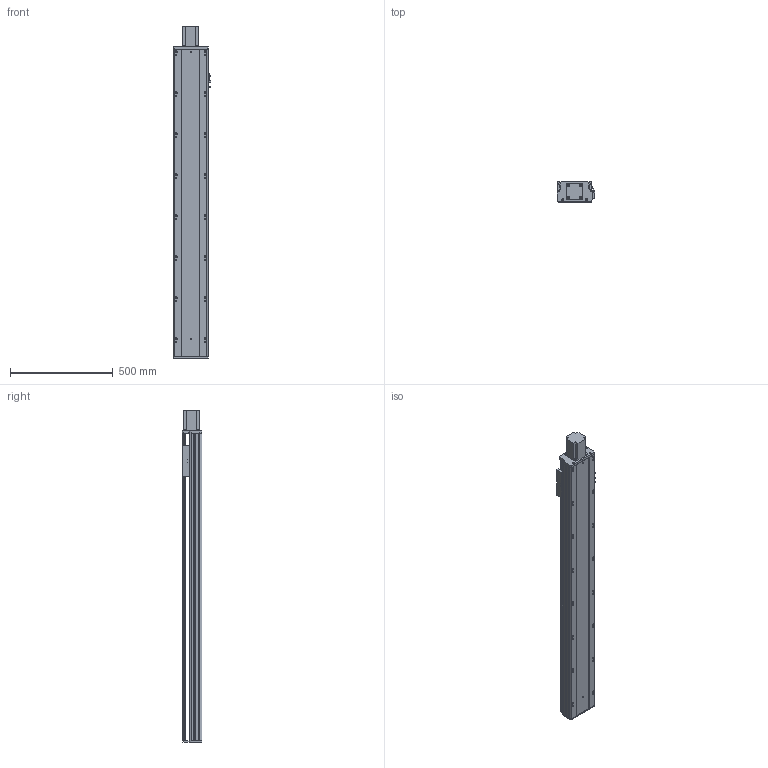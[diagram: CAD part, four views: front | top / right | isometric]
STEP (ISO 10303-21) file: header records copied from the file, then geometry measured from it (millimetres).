
FILE_DESCRIPTION (( 'STEP AP203' ), '1' );
FILE_NAME ('Y170-D10-S1250-BD-P750W.STEP', '2020-01-22T07:11:37', ( '微软用户' ), ( '微软中国' ), 'SwSTEP 2.0', 'SolidWorks 2017', '' );
FILE_SCHEMA (( 'CONFIG_CONTROL_DESIGN' ));
Length unit declared in the file: millimetre
Products named in the file (10): 侂狟750W; Y170耜裔--準---; Y170-陔遴奻裔-BD; Y170--雄赽釱-梓--; YD-Y100-135-新外置传感挡片(通用）; Y170-D10-S1250-BD-P750W; Y100-135俋离換覜ん; 170--掛极-BD; Y170-萇儂楊擘啣--; 135-盓傅釱-FK15
Assembly tree (11 placements, depth 2):
  Y170-D10-S1250-BD-P750W
    YD-Y100-135-新外置传感挡片(通用）
    Y100-135俋离換覜ん  x3
    170--掛极-BD
    Y170-萇儂楊擘啣--
    135-盓傅釱-FK15
    侂狟750W
    Y170耜裔--準---
    Y170-陔遴奻裔-BD
    Y170--雄赽釱-梓--
Bounding box: 183.5 x 97 x 1618.5 mm (x, y, z)
Volume: 6780880.5 mm3; surface area: 2322252.6 mm2
Topology: 11 solids, 11 shells, 840 faces, 2403 edges, 1592 vertices
Faces by surface type: cylinder 450, plane 388, torus 2
Entity records: 27551 total; most frequent: CARTESIAN_POINT 4995, DIRECTION 4585, ORIENTED_EDGE 4470, EDGE_CURVE 2235, AXIS2_PLACEMENT_3D 1654, VERTEX_POINT 1480, LINE 1277, VECTOR 1277
